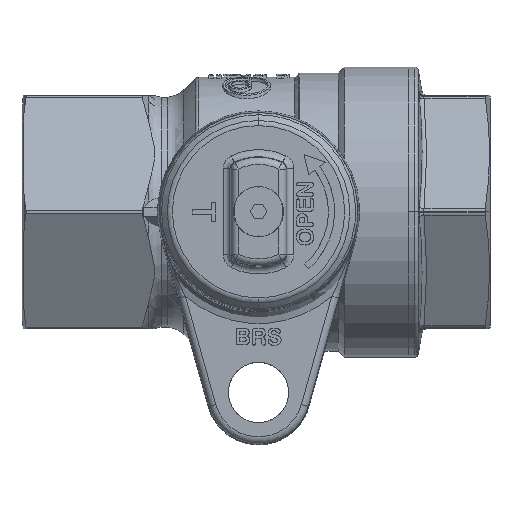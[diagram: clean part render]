
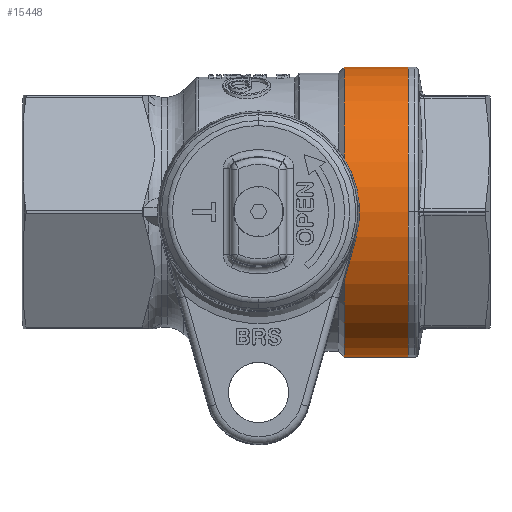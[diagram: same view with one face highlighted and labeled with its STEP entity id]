
A CAD part, top view. The second image highlights one B-rep face of the part: STEP entity #15448.
In plain terms, the highlighted cylindrical face has radius 30.5 mm (diameter 61 mm), a partial arc.
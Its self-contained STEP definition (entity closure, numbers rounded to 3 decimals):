
#15318 = PLANE('',#15319);
#15319 = AXIS2_PLACEMENT_3D('',#15320,#15321,#15322);
#15320 = CARTESIAN_POINT('',(81.27,30.5,-49.));
#15321 = DIRECTION('',(1.,0.,0.));
#15322 = DIRECTION('',(0.,0.,-1.));
#15388 = VERTEX_POINT('',#15389);
#15389 = CARTESIAN_POINT('',(81.27,0.,-49.));
#15390 = VERTEX_POINT('',#15391);
#15391 = CARTESIAN_POINT('',(81.27,61.,-49.));
#15406 = CYLINDRICAL_SURFACE('',#15407,30.5);
#15407 = AXIS2_PLACEMENT_3D('',#15408,#15409,#15410);
#15408 = CARTESIAN_POINT('',(-4.423,30.5,-49.));
#15409 = DIRECTION('',(1.,0.,0.));
#15410 = DIRECTION('',(0.,-1.,0.));
#15418 = EDGE_CURVE('',#15390,#15388,#15419,.T.);
#15419 = SURFACE_CURVE('',#15420,(#15425,#15432),.PCURVE_S1.);
#15420 = CIRCLE('',#15421,30.5);
#15421 = AXIS2_PLACEMENT_3D('',#15422,#15423,#15424);
#15422 = CARTESIAN_POINT('',(81.27,30.5,-49.));
#15423 = DIRECTION('',(1.,0.,0.));
#15424 = DIRECTION('',(-0.,1.,0.));
#15425 = PCURVE('',#15318,#15426);
#15426 = DEFINITIONAL_REPRESENTATION('',(#15427),#15431);
#15427 = CIRCLE('',#15428,30.5);
#15428 = AXIS2_PLACEMENT_2D('',#15429,#15430);
#15429 = CARTESIAN_POINT('',(0.,0.));
#15430 = DIRECTION('',(0.,1.));
#15431 = ( GEOMETRIC_REPRESENTATION_CONTEXT(2) 
PARAMETRIC_REPRESENTATION_CONTEXT() REPRESENTATION_CONTEXT('2D SPACE',''
  ) );
#15432 = PCURVE('',#15433,#15438);
#15433 = CYLINDRICAL_SURFACE('',#15434,30.5);
#15434 = AXIS2_PLACEMENT_3D('',#15435,#15436,#15437);
#15435 = CARTESIAN_POINT('',(-4.423,30.5,-49.));
#15436 = DIRECTION('',(1.,0.,0.));
#15437 = DIRECTION('',(0.,-1.,0.));
#15438 = DEFINITIONAL_REPRESENTATION('',(#15439),#15443);
#15439 = LINE('',#15440,#15441);
#15440 = CARTESIAN_POINT('',(3.142,85.693));
#15441 = VECTOR('',#15442,1.);
#15442 = DIRECTION('',(1.,0.));
#15443 = ( GEOMETRIC_REPRESENTATION_CONTEXT(2) 
PARAMETRIC_REPRESENTATION_CONTEXT() REPRESENTATION_CONTEXT('2D SPACE',''
  ) );
#15448 = ADVANCED_FACE('',(#15449),#15433,.T.);
#15449 = FACE_BOUND('',#15450,.T.);
#15450 = EDGE_LOOP('',(#15451,#15474,#15503,#15524));
#15451 = ORIENTED_EDGE('',*,*,#15452,.T.);
#15452 = EDGE_CURVE('',#15390,#15453,#15455,.T.);
#15453 = VERTEX_POINT('',#15454);
#15454 = CARTESIAN_POINT('',(67.77,61.,-49.));
#15455 = SURFACE_CURVE('',#15456,(#15460,#15467),.PCURVE_S1.);
#15456 = LINE('',#15457,#15458);
#15457 = CARTESIAN_POINT('',(81.27,61.,-49.));
#15458 = VECTOR('',#15459,1.);
#15459 = DIRECTION('',(-1.,0.,0.));
#15460 = PCURVE('',#15433,#15461);
#15461 = DEFINITIONAL_REPRESENTATION('',(#15462),#15466);
#15462 = LINE('',#15463,#15464);
#15463 = CARTESIAN_POINT('',(3.142,85.693));
#15464 = VECTOR('',#15465,1.);
#15465 = DIRECTION('',(0.,-1.));
#15466 = ( GEOMETRIC_REPRESENTATION_CONTEXT(2) 
PARAMETRIC_REPRESENTATION_CONTEXT() REPRESENTATION_CONTEXT('2D SPACE',''
  ) );
#15467 = PCURVE('',#15406,#15468);
#15468 = DEFINITIONAL_REPRESENTATION('',(#15469),#15473);
#15469 = LINE('',#15470,#15471);
#15470 = CARTESIAN_POINT('',(3.142,85.693));
#15471 = VECTOR('',#15472,1.);
#15472 = DIRECTION('',(0.,-1.));
#15473 = ( GEOMETRIC_REPRESENTATION_CONTEXT(2) 
PARAMETRIC_REPRESENTATION_CONTEXT() REPRESENTATION_CONTEXT('2D SPACE',''
  ) );
#15474 = ORIENTED_EDGE('',*,*,#15475,.T.);
#15475 = EDGE_CURVE('',#15453,#15476,#15478,.T.);
#15476 = VERTEX_POINT('',#15477);
#15477 = CARTESIAN_POINT('',(67.77,0.,-49.));
#15478 = SURFACE_CURVE('',#15479,(#15484,#15491),.PCURVE_S1.);
#15479 = CIRCLE('',#15480,30.5);
#15480 = AXIS2_PLACEMENT_3D('',#15481,#15482,#15483);
#15481 = CARTESIAN_POINT('',(67.77,30.5,-49.));
#15482 = DIRECTION('',(1.,0.,0.));
#15483 = DIRECTION('',(-0.,1.,0.));
#15484 = PCURVE('',#15433,#15485);
#15485 = DEFINITIONAL_REPRESENTATION('',(#15486),#15490);
#15486 = LINE('',#15487,#15488);
#15487 = CARTESIAN_POINT('',(3.142,72.193));
#15488 = VECTOR('',#15489,1.);
#15489 = DIRECTION('',(1.,0.));
#15490 = ( GEOMETRIC_REPRESENTATION_CONTEXT(2) 
PARAMETRIC_REPRESENTATION_CONTEXT() REPRESENTATION_CONTEXT('2D SPACE',''
  ) );
#15491 = PCURVE('',#15492,#15497);
#15492 = CONICAL_SURFACE('',#15493,29.875,0.785);
#15493 = AXIS2_PLACEMENT_3D('',#15494,#15495,#15496);
#15494 = CARTESIAN_POINT('',(67.145,30.5,-49.));
#15495 = DIRECTION('',(1.,0.,0.));
#15496 = DIRECTION('',(0.,-1.,0.));
#15497 = DEFINITIONAL_REPRESENTATION('',(#15498),#15502);
#15498 = LINE('',#15499,#15500);
#15499 = CARTESIAN_POINT('',(3.142,0.625));
#15500 = VECTOR('',#15501,1.);
#15501 = DIRECTION('',(1.,0.));
#15502 = ( GEOMETRIC_REPRESENTATION_CONTEXT(2) 
PARAMETRIC_REPRESENTATION_CONTEXT() REPRESENTATION_CONTEXT('2D SPACE',''
  ) );
#15503 = ORIENTED_EDGE('',*,*,#15504,.F.);
#15504 = EDGE_CURVE('',#15388,#15476,#15505,.T.);
#15505 = SURFACE_CURVE('',#15506,(#15510,#15517),.PCURVE_S1.);
#15506 = LINE('',#15507,#15508);
#15507 = CARTESIAN_POINT('',(81.27,0.,-49.));
#15508 = VECTOR('',#15509,1.);
#15509 = DIRECTION('',(-1.,0.,0.));
#15510 = PCURVE('',#15433,#15511);
#15511 = DEFINITIONAL_REPRESENTATION('',(#15512),#15516);
#15512 = LINE('',#15513,#15514);
#15513 = CARTESIAN_POINT('',(6.283,85.693));
#15514 = VECTOR('',#15515,1.);
#15515 = DIRECTION('',(0.,-1.));
#15516 = ( GEOMETRIC_REPRESENTATION_CONTEXT(2) 
PARAMETRIC_REPRESENTATION_CONTEXT() REPRESENTATION_CONTEXT('2D SPACE',''
  ) );
#15517 = PCURVE('',#15406,#15518);
#15518 = DEFINITIONAL_REPRESENTATION('',(#15519),#15523);
#15519 = LINE('',#15520,#15521);
#15520 = CARTESIAN_POINT('',(0.,85.693));
#15521 = VECTOR('',#15522,1.);
#15522 = DIRECTION('',(0.,-1.));
#15523 = ( GEOMETRIC_REPRESENTATION_CONTEXT(2) 
PARAMETRIC_REPRESENTATION_CONTEXT() REPRESENTATION_CONTEXT('2D SPACE',''
  ) );
#15524 = ORIENTED_EDGE('',*,*,#15418,.F.);
